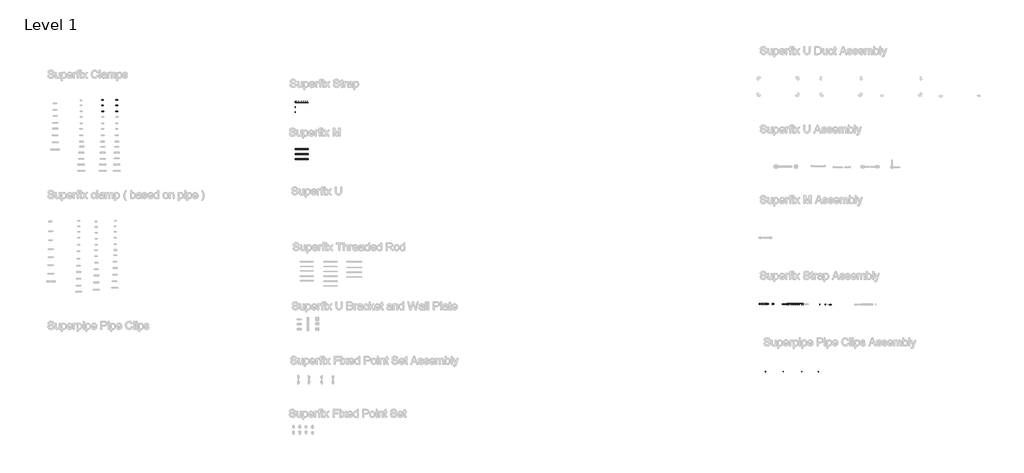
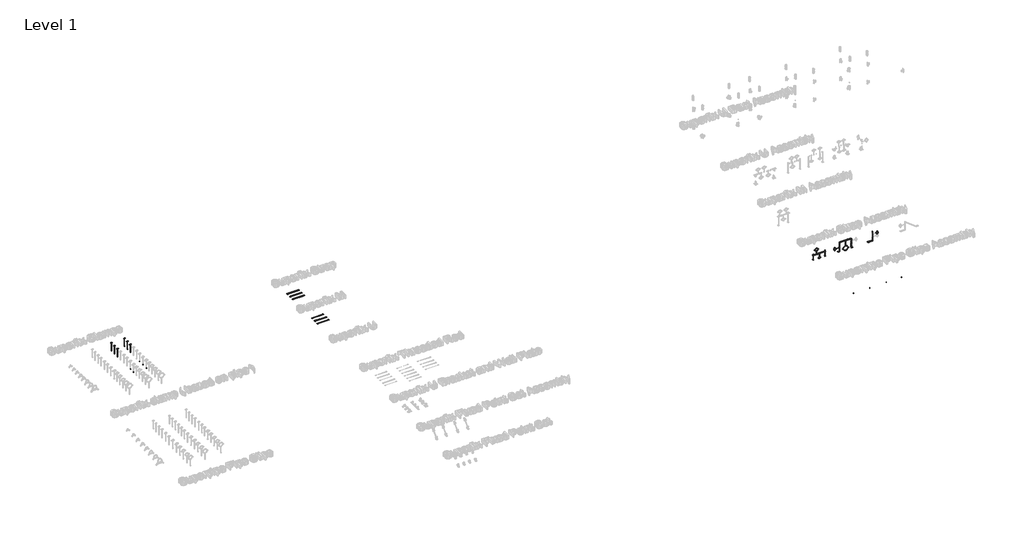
# One storey, part 5 of 32: 139 valves, 2 unitary equipment elements.
"""IFC4 building model written with IfcOpenShell, lengths in millimetres."""

from ifc_helpers import new_model, si_unit, origin, place, context, project, spatial, transform, mapped, element, save
from components import unitary_equipment_e487e5fd, valve_4cd83ece, valve_5304cde6, valve_b4b668c8, valve_03d34d46, valve_3ecbcef6, valve_9efe13c8, valve_b67d411c, valve_2c299770, valve_541e58e5, valve_9317ca73, valve_400a6949, valve_dc9e7541, valve_fd664f3f, valve_c1f0a65c, valve_76fbe92c, valve_fad8a5b8, valve_cdfc1e77, valve_7fccb85c, valve_54fbe6a6, valve_d78be41b, valve_1a68cbfa, hexagon_nut_galvanized_extra_m10_fcef541f, hexagon_nut_galvanized_extra_m8_53389388, valve_42e91783, superfix_hexagon_screw_galvanized_39733bb5, superfix_m_extra_beb970f8, superfix_strap_92ff0648, superfix_strap_170edda0, superfix_strap_511f298a, superfix_strap_0810b350, superfix_strap_981cfdac, superfix_strap_extra_1f4a646b

model = new_model("IFC4")

# Units and contexts
model_context = context("Model", 3, world=origin())
ifc_project = project(units=[si_unit("LENGTHUNIT", "METRE", prefix="MILLI")], contexts=[model_context])

# Site, building, storey
site = spatial("IfcSite", under=ifc_project)
building = spatial("IfcBuilding", under=site)
storey = spatial("IfcBuildingStorey", under=building, Name="Level 1", Elevation=0.0)

# Unitary equipment
placement = place(None, origin())
unitary_equipment_shape = unitary_equipment_e487e5fd(model_context)
element("IfcUnitaryEquipment", 1, ObjectType="1_INS_MQA-R : MQA-R", at=placement, inside=storey, context=model_context, shape_type="MappedRepresentation", body=[
    mapped(unitary_equipment_shape, transform((-22566.5211936, 20812.4684398, 0.0), x_axis=(0.0, 1.0, 0.0), y_axis=(-1.0, 0.0, 0.0), z_axis=(0.0, 0.0, 1.0))),
])
element("IfcUnitaryEquipment", 2, ObjectType="1_INS_MQA-R : MQA-R", at=placement, inside=storey, context=model_context, shape_type="MappedRepresentation", body=[
    mapped(unitary_equipment_shape, transform((-22066.5211936, 20812.4684398, 0.0), x_axis=(0.0, 1.0, 0.0), y_axis=(-1.0, 0.0, 0.0), z_axis=(0.0, 0.0, 1.0))),
])

# Valves
valve_shape = valve_4cd83ece(model_context)
element("IfcValve", 3, ObjectType="Superfix Threaded Rod (used for clamps) : Threaded Rod - 1000 mm (used for clamps)", at=placement, inside=storey, context=model_context, shape_type="MappedRepresentation", body=[
    mapped(valve_shape, transform((-22566.5211936, 20812.4684398, 0.0), x_axis=(0.0, 0.0, 1.0), y_axis=(1.0, 0.0, 0.0), z_axis=(0.0, 1.0, 0.0))),
])
element("IfcValve", 4, ObjectType="Superfix Threaded Rod (used for clamps) : Threaded Rod - 1000 mm (used for clamps)", at=placement, inside=storey, context=model_context, shape_type="MappedRepresentation", body=[
    mapped(valve_shape, transform((-22066.5211936, 20812.4684398, 0.0), x_axis=(0.0, 0.0, 1.0), y_axis=(1.0, 0.0, 0.0), z_axis=(0.0, 1.0, 0.0))),
])
valve_2_shape = valve_5304cde6(model_context)
element("IfcValve", 5, ObjectType="Superfix Threaded Rod (used for clamps) : Threaded Rod - 1000 mm (used for clamps)", at=placement, inside=storey, context=model_context, shape_type="MappedRepresentation", body=[
    mapped(valve_2_shape, transform((-22299.5211936, 20812.4684398, 202.0), x_axis=(0.0, 0.0, -1.0), y_axis=(-1.0, 0.0, 0.0), z_axis=(0.0, 1.0, 0.0))),
])
valve_3_shape = valve_b4b668c8(model_context)
element("IfcValve", 6, ObjectType="Superfix DG2 Clamp : Superfix DG2 Clamp", at=placement, inside=storey, context=model_context, shape_type="MappedRepresentation", body=[
    mapped(valve_3_shape, transform((-21204.0211936, 20799.485539, 402.0), x_axis=(0.0, -1.0, 0.0), y_axis=(-1.0, 0.0, 0.0), z_axis=(0.0, 0.0, -1.0))),
])
valve_4_shape = valve_03d34d46(model_context)
element("IfcValve", 7, ObjectType="Superfix DG2 Clamp : Superfix DG2 Clamp", at=placement, inside=storey, context=model_context, shape_type="MappedRepresentation", body=[
    mapped(valve_4_shape, transform((-22424.5211936, 20812.4684398, 202.0), x_axis=(0.0, 1.0, 0.0), y_axis=(-1.0, 0.0, 0.0), z_axis=(0.0, 0.0, 1.0))),
])
valve_5_shape = valve_3ecbcef6(model_context)
element("IfcValve", 8, ObjectType="Superfix Threaded Rod (used for clamps) : Threaded Rod - 1000 mm (used for clamps)", at=placement, inside=storey, context=model_context, shape_type="MappedRepresentation", body=[
    mapped(valve_5_shape, transform((-22424.5211936, 20812.4684398, 202.0), x_axis=(0.0, 0.0, 1.0), y_axis=(1.0, 0.0, 0.0), z_axis=(0.0, 1.0, 0.0))),
])
valve_6_shape = valve_9efe13c8(model_context)
element("IfcValve", 9, ObjectType="Superfix DG2 Clamp : Superfix DG2 Clamp", at=placement, inside=storey, context=model_context, shape_type="MappedRepresentation", body=[
    mapped(valve_6_shape, transform((-20075.2249053, 20789.480189, 287.5), x_axis=(0.0, 1.0, 0.0), y_axis=(0.0, 0.0, 1.0), z_axis=(1.0, 0.0, 0.0))),
])
element("IfcValve", 10, ObjectType="Superfix DG2 Clamp : Superfix DG2 Clamp", at=placement, inside=storey, context=model_context, shape_type="MappedRepresentation", body=[
    mapped(valve_6_shape, transform((-21464.5211936, 20799.485539, 167.25), x_axis=(0.0, -1.0, 0.0), y_axis=(0.0, 0.0, 1.0), z_axis=(-1.0, 0.0, 0.0))),
])
valve_7_shape = valve_b67d411c(model_context)
element("IfcValve", 11, ObjectType="Superfix Threaded Rod (used for clamps) : Threaded Rod - 1000 mm (used for clamps)", at=placement, inside=storey, context=model_context, shape_type="MappedRepresentation", body=[
    mapped(valve_7_shape, transform((-21464.5211936, 20799.485539, 167.25), x_axis=(-1.0, 0.0, 0.0), y_axis=(0.0, 0.0, -1.0), z_axis=(0.0, -1.0, 0.0))),
])
valve_8_shape = valve_2c299770(model_context)
element("IfcValve", 12, ObjectType="Superfix DG2 Clamp : Superfix DG2 Clamp", at=placement, inside=storey, context=model_context, shape_type="MappedRepresentation", body=[
    mapped(valve_8_shape, transform((-22299.5211936, 20812.4684398, 202.0), x_axis=(0.0, 1.0, 0.0), y_axis=(1.0, 0.0, 0.0), z_axis=(0.0, 0.0, -1.0))),
])
valve_9_shape = valve_541e58e5(model_context)
element("IfcValve", 13, ObjectType="Superfix DG2 Clamp Extra : Superfix DG2 Clamp Extra", at=placement, inside=storey, context=model_context, shape_type="MappedRepresentation", body=[
    mapped(valve_9_shape, transform((-47680.7889153, 28620.0778121, 0.0), x_axis=(0.0, -1.0, 0.0), y_axis=(1.0, 0.0, 0.0), z_axis=(0.0, 0.0, 1.0))),
])
valve_10_shape = valve_9317ca73(model_context)
element("IfcValve", 14, ObjectType="Superfix DG2 Clamp Extra : Superfix DG2 Clamp Extra", at=placement, inside=storey, context=model_context, shape_type="MappedRepresentation", body=[
    mapped(valve_10_shape, transform((-47674.2889153, 28179.0778121, 0.0), x_axis=(0.0, -1.0, 0.0), y_axis=(1.0, 0.0, 0.0), z_axis=(0.0, 0.0, 1.0))),
])
valve_11_shape = valve_400a6949(model_context)
element("IfcValve", 15, ObjectType="Superfix DG2 Clamp Extra : Superfix DG2 Clamp Extra", at=placement, inside=storey, context=model_context, shape_type="MappedRepresentation", body=[
    mapped(valve_11_shape, transform((-47679.2889153, 28400.0778121, 0.0), x_axis=(0.0, -1.0, 0.0), y_axis=(1.0, 0.0, 0.0), z_axis=(0.0, 0.0, 1.0))),
])
valve_12_shape = valve_dc9e7541(model_context)
element("IfcValve", 16, ObjectType="Superfix DG2 Clamp Extra + : Superfix DG2 Clamp Extra +", at=placement, inside=storey, context=model_context, shape_type="MappedRepresentation", body=[
    mapped(valve_12_shape, transform((-47132.8023141, 28620.0778121, 0.0), x_axis=(0.0, -1.0, 0.0), y_axis=(1.0, 0.0, 0.0), z_axis=(0.0, 0.0, 1.0))),
])
valve_13_shape = valve_fd664f3f(model_context)
element("IfcValve", 17, ObjectType="Superfix DG2 Clamp Extra + : Superfix DG2 Clamp Extra +", at=placement, inside=storey, context=model_context, shape_type="MappedRepresentation", body=[
    mapped(valve_13_shape, transform((-47134.3023141, 28400.0778121, 0.0), x_axis=(0.0, -1.0, 0.0), y_axis=(1.0, 0.0, 0.0), z_axis=(0.0, 0.0, 1.0))),
])
valve_14_shape = valve_c1f0a65c(model_context)
element("IfcValve", 18, ObjectType="Superfix DG2 Clamp Extra + : Superfix DG2 Clamp Extra +", at=placement, inside=storey, context=model_context, shape_type="MappedRepresentation", body=[
    mapped(valve_14_shape, transform((-47132.8023141, 28179.0778121, 0.0), x_axis=(0.0, -1.0, 0.0), y_axis=(1.0, 0.0, 0.0), z_axis=(0.0, 0.0, 1.0))),
])
valve_15_shape = valve_76fbe92c(model_context)
element("IfcValve", 19, ObjectType="Superfix Flat Washer : Superfix Flat Washer M4x10x1", at=placement, inside=storey, context=model_context, shape_type="MappedRepresentation", body=[
    mapped(valve_15_shape, transform((-22353.6380687, 18221.8902814, -2.008864), x_axis=(1.0, 0.0, 0.0), y_axis=(0.0, -1.0, 0.0), z_axis=(0.0, 0.0, -1.0))),
])
element("IfcValve", 20, ObjectType="Superfix Flat Washer : Superfix Flat Washer M4x10x1", at=placement, inside=storey, context=model_context, shape_type="MappedRepresentation", body=[
    mapped(valve_15_shape, transform((-21673.6380687, 18221.8902814, -2.008864), x_axis=(1.0, 0.0, 0.0), y_axis=(0.0, -1.0, 0.0), z_axis=(0.0, 0.0, -1.0))),
])
element("IfcValve", 21, ObjectType="Superfix Flat Washer : Superfix Flat Washer M4x10x1", at=placement, inside=storey, context=model_context, shape_type="MappedRepresentation", body=[
    mapped(valve_15_shape, transform((-20973.6380687, 18221.8902814, -2.008864), x_axis=(1.0, 0.0, 0.0), y_axis=(0.0, -1.0, 0.0), z_axis=(0.0, 0.0, -1.0))),
])
element("IfcValve", 22, ObjectType="Superfix Flat Washer : Superfix Flat Washer M4x10x1", at=placement, inside=storey, context=model_context, shape_type="MappedRepresentation", body=[
    mapped(valve_15_shape, transform((-20333.6380687, 18221.8902814, -2.008864), x_axis=(1.0, 0.0, 0.0), y_axis=(0.0, -1.0, 0.0), z_axis=(0.0, 0.0, -1.0))),
])
element("IfcValve", 23, ObjectType="Superfix Flat Washer : Superfix Flat Washer M4x10x1", at=placement, inside=storey, context=model_context, shape_type="MappedRepresentation", body=[
    mapped(valve_15_shape, transform((-21363.2711936, 20799.485539, 399.991136), x_axis=(1.0, 0.0, 0.0), y_axis=(0.0, -1.0, 0.0), z_axis=(0.0, 0.0, -1.0))),
])
element("IfcValve", 24, ObjectType="Superfix Flat Washer : Superfix Flat Washer M4x10x1", at=placement, inside=storey, context=model_context, shape_type="MappedRepresentation", body=[
    mapped(valve_15_shape, transform((-21275.4513629, 20799.485539, 399.991136), x_axis=(1.0, 0.0, 0.0), y_axis=(0.0, -1.0, 0.0), z_axis=(0.0, 0.0, -1.0))),
])
element("IfcValve", 25, ObjectType="Superfix Flat Washer : Superfix Flat Washer M4x10x1", at=placement, inside=storey, context=model_context, shape_type="MappedRepresentation", body=[
    mapped(valve_15_shape, transform((-21466.5300576, 20799.485539, 267.1301694), x_axis=(0.0, 0.0, -1.0), y_axis=(0.0, -1.0, 0.0), z_axis=(-1.0, 0.0, 0.0))),
])
element("IfcValve", 26, ObjectType="Superfix Flat Washer : Superfix Flat Washer M4x10x1", at=placement, inside=storey, context=model_context, shape_type="MappedRepresentation", body=[
    mapped(valve_15_shape, transform((-21466.5300576, 20799.485539, 50.5301694), x_axis=(0.0, 0.0, -1.0), y_axis=(0.0, -1.0, 0.0), z_axis=(-1.0, 0.0, 0.0))),
])
element("IfcValve", 27, ObjectType="Superfix Flat Washer : Superfix Flat Washer M4x10x1", at=placement, inside=storey, context=model_context, shape_type="MappedRepresentation", body=[
    mapped(valve_15_shape, transform((-21130.6477011, 20799.485539, 399.991136), x_axis=(1.0, 0.0, 0.0), y_axis=(0.0, -1.0, 0.0), z_axis=(0.0, 0.0, -1.0))),
])
element("IfcValve", 28, ObjectType="Superfix Flat Washer : Superfix Flat Washer M4x10x1", at=placement, inside=storey, context=model_context, shape_type="MappedRepresentation", body=[
    mapped(valve_15_shape, transform((-22375.4013629, 20812.4684398, 204.008864), x_axis=(1.0, 0.0, 0.0), y_axis=(0.0, 1.0, 0.0), z_axis=(0.0, 0.0, 1.0))),
])
element("IfcValve", 29, ObjectType="Superfix Flat Washer : Superfix Flat Washer M4x10x1", at=placement, inside=storey, context=model_context, shape_type="MappedRepresentation", body=[
    mapped(valve_15_shape, transform((-22237.2711936, 20812.4684398, 204.008864), x_axis=(1.0, 0.0, 0.0), y_axis=(0.0, 1.0, 0.0), z_axis=(0.0, 0.0, 1.0))),
])
element("IfcValve", 30, ObjectType="Superfix Flat Washer : Superfix Flat Washer M4x10x1", at=placement, inside=storey, context=model_context, shape_type="MappedRepresentation", body=[
    mapped(valve_15_shape, transform((-22517.0513629, 20812.4684398, 204.008864), x_axis=(1.0, 0.0, 0.0), y_axis=(0.0, 1.0, 0.0), z_axis=(0.0, 0.0, 1.0))),
])
valve_16_shape = valve_fad8a5b8(model_context)
element("IfcValve", 31, ObjectType="Superfix Flat Washer : Superfix Flat Washer M8x15x1.5", at=placement, inside=storey, context=model_context, shape_type="MappedRepresentation", body=[
    mapped(valve_16_shape, transform((-22566.5211936, 20812.4684398, 198.4), x_axis=(0.0, 1.0, 0.0), y_axis=(-1.0, 0.0, 0.0), z_axis=(0.0, 0.0, 1.0))),
])
element("IfcValve", 32, ObjectType="Superfix Flat Washer : Superfix Flat Washer M8x15x1.5", at=placement, inside=storey, context=model_context, shape_type="MappedRepresentation", body=[
    mapped(valve_16_shape, transform((-22566.5211936, 20812.4684398, 203.0), x_axis=(0.0, 1.0, 0.0), y_axis=(-1.0, 0.0, 0.0), z_axis=(0.0, 0.0, 1.0))),
])
element("IfcValve", 33, ObjectType="Superfix Flat Washer : Superfix Flat Washer M8x15x1.5", at=placement, inside=storey, context=model_context, shape_type="MappedRepresentation", body=[
    mapped(valve_16_shape, transform((-22066.5211936, 20812.4684398, 203.0), x_axis=(0.0, 1.0, 0.0), y_axis=(-1.0, 0.0, 0.0), z_axis=(0.0, 0.0, 1.0))),
])
element("IfcValve", 34, ObjectType="Superfix Flat Washer : Superfix Flat Washer M8x15x1.5", at=placement, inside=storey, context=model_context, shape_type="MappedRepresentation", body=[
    mapped(valve_16_shape, transform((-22066.5211936, 20812.4684398, 198.4), x_axis=(0.0, 1.0, 0.0), y_axis=(-1.0, 0.0, 0.0), z_axis=(0.0, 0.0, 1.0))),
])
element("IfcValve", 35, ObjectType="Superfix Flat Washer : Superfix Flat Washer M8x15x1.5", at=placement, inside=storey, context=model_context, shape_type="MappedRepresentation", body=[
    mapped(valve_16_shape, transform((-22299.5211936, 20812.4684398, 199.0), x_axis=(0.0, 1.0, 0.0), y_axis=(1.0, 0.0, 0.0), z_axis=(0.0, 0.0, -1.0))),
])
element("IfcValve", 36, ObjectType="Superfix Flat Washer : Superfix Flat Washer M8x15x1.5", at=placement, inside=storey, context=model_context, shape_type="MappedRepresentation", body=[
    mapped(valve_16_shape, transform((-22299.5211936, 20812.4684398, 203.6), x_axis=(0.0, 1.0, 0.0), y_axis=(1.0, 0.0, 0.0), z_axis=(0.0, 0.0, -1.0))),
])
valve_17_shape = valve_cdfc1e77(model_context)
element("IfcValve", 37, ObjectType="Superfix Flat Washer : Superfix Flat Washer M10x20x1.5", at=placement, inside=storey, context=model_context, shape_type="MappedRepresentation", body=[
    mapped(valve_17_shape, transform((-21467.5211936, 20799.485539, 167.25), x_axis=(0.0, -1.0, 0.0), y_axis=(0.0, 0.0, 1.0), z_axis=(-1.0, 0.0, 0.0))),
])
element("IfcValve", 38, ObjectType="Superfix Flat Washer : Superfix Flat Washer M10x20x1.5", at=placement, inside=storey, context=model_context, shape_type="MappedRepresentation", body=[
    mapped(valve_17_shape, transform((-21462.5211936, 20799.485539, 167.25), x_axis=(0.0, -1.0, 0.0), y_axis=(0.0, 0.0, 1.0), z_axis=(-1.0, 0.0, 0.0))),
])
element("IfcValve", 39, ObjectType="Superfix Flat Washer : Superfix Flat Washer M10x20x1.5", at=placement, inside=storey, context=model_context, shape_type="MappedRepresentation", body=[
    mapped(valve_17_shape, transform((-21204.0211936, 20799.485539, 399.0), x_axis=(0.0, -1.0, 0.0), y_axis=(-1.0, 0.0, 0.0), z_axis=(0.0, 0.0, -1.0))),
])
element("IfcValve", 40, ObjectType="Superfix Flat Washer : Superfix Flat Washer M10x20x1.5", at=placement, inside=storey, context=model_context, shape_type="MappedRepresentation", body=[
    mapped(valve_17_shape, transform((-21204.0211936, 20799.485539, 404.0), x_axis=(0.0, -1.0, 0.0), y_axis=(-1.0, 0.0, 0.0), z_axis=(0.0, 0.0, -1.0))),
])
element("IfcValve", 41, ObjectType="Superfix Flat Washer : Superfix Flat Washer M10x20x1.5", at=placement, inside=storey, context=model_context, shape_type="MappedRepresentation", body=[
    mapped(valve_17_shape, transform((-22424.5211936, 20812.4684398, 205.0), x_axis=(0.0, 1.0, 0.0), y_axis=(-1.0, 0.0, 0.0), z_axis=(0.0, 0.0, 1.0))),
])
element("IfcValve", 42, ObjectType="Superfix Flat Washer : Superfix Flat Washer M10x20x1.5", at=placement, inside=storey, context=model_context, shape_type="MappedRepresentation", body=[
    mapped(valve_17_shape, transform((-22424.5211936, 20812.4684398, 200.0), x_axis=(0.0, 1.0, 0.0), y_axis=(-1.0, 0.0, 0.0), z_axis=(0.0, 0.0, 1.0))),
])
element("IfcValve", 43, ObjectType="Superfix Flat Washer : Superfix Flat Washer Extra M8x15x1.5", at=placement, inside=storey, context=model_context, shape_type="MappedRepresentation", body=[
    mapped(valve_16_shape, transform((-47680.7889153, 28620.0778121, 5.0), x_axis=(1.0, 0.0, 0.0), y_axis=(0.0, 1.0, 0.0), z_axis=(0.0, 0.0, 1.0))),
])
element("IfcValve", 44, ObjectType="Superfix Flat Washer : Superfix Flat Washer Extra M8x15x1.5", at=placement, inside=storey, context=model_context, shape_type="MappedRepresentation", body=[
    mapped(valve_16_shape, transform((-47680.7889153, 28620.0778121, -1.6), x_axis=(1.0, 0.0, 0.0), y_axis=(0.0, 1.0, 0.0), z_axis=(0.0, 0.0, 1.0))),
])
element("IfcValve", 45, ObjectType="Superfix Flat Washer : Superfix Flat Washer Extra M8x15x1.5", at=placement, inside=storey, context=model_context, shape_type="MappedRepresentation", body=[
    mapped(valve_16_shape, transform((-47679.2889153, 28400.0778121, 5.0), x_axis=(1.0, 0.0, 0.0), y_axis=(0.0, 1.0, 0.0), z_axis=(0.0, 0.0, 1.0))),
])
element("IfcValve", 46, ObjectType="Superfix Flat Washer : Superfix Flat Washer Extra M8x15x1.5", at=placement, inside=storey, context=model_context, shape_type="MappedRepresentation", body=[
    mapped(valve_16_shape, transform((-47679.2889153, 28400.0778121, -1.6), x_axis=(1.0, 0.0, 0.0), y_axis=(0.0, 1.0, 0.0), z_axis=(0.0, 0.0, 1.0))),
])
element("IfcValve", 47, ObjectType="Superfix Flat Washer : Superfix Flat Washer Extra M8x15x1.5", at=placement, inside=storey, context=model_context, shape_type="MappedRepresentation", body=[
    mapped(valve_16_shape, transform((-47674.2889153, 28179.0778121, 5.0), x_axis=(1.0, 0.0, 0.0), y_axis=(0.0, 1.0, 0.0), z_axis=(0.0, 0.0, 1.0))),
])
element("IfcValve", 48, ObjectType="Superfix Flat Washer : Superfix Flat Washer Extra M8x15x1.5", at=placement, inside=storey, context=model_context, shape_type="MappedRepresentation", body=[
    mapped(valve_16_shape, transform((-47674.2889153, 28179.0778121, -1.6), x_axis=(1.0, 0.0, 0.0), y_axis=(0.0, 1.0, 0.0), z_axis=(0.0, 0.0, 1.0))),
])
element("IfcValve", 49, ObjectType="Superfix Flat Washer : Superfix Flat Washer EXtra M10x20x1.5", at=placement, inside=storey, context=model_context, shape_type="MappedRepresentation", body=[
    mapped(valve_17_shape, transform((-47669.2889153, 27260.0778121, 5.0), x_axis=(1.0, 0.0, 0.0), y_axis=(0.0, 1.0, 0.0), z_axis=(0.0, 0.0, 1.0))),
])
element("IfcValve", 50, ObjectType="Superfix Flat Washer : Superfix Flat Washer EXtra M10x20x1.5", at=placement, inside=storey, context=model_context, shape_type="MappedRepresentation", body=[
    mapped(valve_17_shape, transform((-47669.2889153, 27260.0778121, -2.0), x_axis=(1.0, 0.0, 0.0), y_axis=(0.0, 1.0, 0.0), z_axis=(0.0, 0.0, 1.0))),
])
element("IfcValve", 51, ObjectType="Superfix Flat Washer : Superfix Flat Washer EXtra M10x20x1.5", at=placement, inside=storey, context=model_context, shape_type="MappedRepresentation", body=[
    mapped(valve_17_shape, transform((-47669.2889153, 27020.0778121, 5.0), x_axis=(1.0, 0.0, 0.0), y_axis=(0.0, 1.0, 0.0), z_axis=(0.0, 0.0, 1.0))),
])
element("IfcValve", 52, ObjectType="Superfix Flat Washer : Superfix Flat Washer EXtra M10x20x1.5", at=placement, inside=storey, context=model_context, shape_type="MappedRepresentation", body=[
    mapped(valve_17_shape, transform((-47669.2889153, 27020.0778121, -2.0), x_axis=(1.0, 0.0, 0.0), y_axis=(0.0, 1.0, 0.0), z_axis=(0.0, 0.0, 1.0))),
])
element("IfcValve", 53, ObjectType="Superfix Flat Washer : Superfix Flat Washer Extra +  M8x15x1.5", at=placement, inside=storey, context=model_context, shape_type="MappedRepresentation", body=[
    mapped(valve_16_shape, transform((-47132.8023141, 28620.0778121, -1.6), x_axis=(1.0, 0.0, 0.0), y_axis=(0.0, 1.0, 0.0), z_axis=(0.0, 0.0, 1.0))),
])
element("IfcValve", 54, ObjectType="Superfix Flat Washer : Superfix Flat Washer Extra +  M8x15x1.5", at=placement, inside=storey, context=model_context, shape_type="MappedRepresentation", body=[
    mapped(valve_16_shape, transform((-47132.8023141, 28620.0778121, 5.0), x_axis=(1.0, 0.0, 0.0), y_axis=(0.0, 1.0, 0.0), z_axis=(0.0, 0.0, 1.0))),
])
element("IfcValve", 55, ObjectType="Superfix Flat Washer : Superfix Flat Washer Extra +  M8x15x1.5", at=placement, inside=storey, context=model_context, shape_type="MappedRepresentation", body=[
    mapped(valve_16_shape, transform((-47134.3023141, 28400.0778121, -1.6), x_axis=(1.0, 0.0, 0.0), y_axis=(0.0, 1.0, 0.0), z_axis=(0.0, 0.0, 1.0))),
])
element("IfcValve", 56, ObjectType="Superfix Flat Washer : Superfix Flat Washer Extra +  M8x15x1.5", at=placement, inside=storey, context=model_context, shape_type="MappedRepresentation", body=[
    mapped(valve_16_shape, transform((-47134.3023141, 28400.0778121, 5.0), x_axis=(1.0, 0.0, 0.0), y_axis=(0.0, 1.0, 0.0), z_axis=(0.0, 0.0, 1.0))),
])
element("IfcValve", 57, ObjectType="Superfix Flat Washer : Superfix Flat Washer Extra +  M8x15x1.5", at=placement, inside=storey, context=model_context, shape_type="MappedRepresentation", body=[
    mapped(valve_16_shape, transform((-47132.8023141, 28179.0778121, -1.6), x_axis=(1.0, 0.0, 0.0), y_axis=(0.0, 1.0, 0.0), z_axis=(0.0, 0.0, 1.0))),
])
element("IfcValve", 58, ObjectType="Superfix Flat Washer : Superfix Flat Washer Extra +  M8x15x1.5", at=placement, inside=storey, context=model_context, shape_type="MappedRepresentation", body=[
    mapped(valve_16_shape, transform((-47132.8023141, 28179.0778121, 5.0), x_axis=(1.0, 0.0, 0.0), y_axis=(0.0, 1.0, 0.0), z_axis=(0.0, 0.0, 1.0))),
])
element("IfcValve", 59, ObjectType="Superfix Flat Washer : Superfix Flat Washer Extra +  M8x15x1.5", at=placement, inside=storey, context=model_context, shape_type="MappedRepresentation", body=[
    mapped(valve_16_shape, transform((-47132.8023141, 27500.0778121, -1.6), x_axis=(1.0, 0.0, 0.0), y_axis=(0.0, 1.0, 0.0), z_axis=(0.0, 0.0, 1.0))),
])
element("IfcValve", 60, ObjectType="Superfix Flat Washer : Superfix Flat Washer Extra +  M8x15x1.5", at=placement, inside=storey, context=model_context, shape_type="MappedRepresentation", body=[
    mapped(valve_16_shape, transform((-47132.8023141, 27500.0778121, 5.0), x_axis=(1.0, 0.0, 0.0), y_axis=(0.0, 1.0, 0.0), z_axis=(0.0, 0.0, 1.0))),
])
element("IfcValve", 61, ObjectType="Superfix Flat Washer : Superfix Flat Washer EXtra +  M10x20x1.5", at=placement, inside=storey, context=model_context, shape_type="MappedRepresentation", body=[
    mapped(valve_17_shape, transform((-47132.8023141, 27260.0778121, -2.0), x_axis=(1.0, 0.0, 0.0), y_axis=(0.0, 1.0, 0.0), z_axis=(0.0, 0.0, 1.0))),
])
element("IfcValve", 62, ObjectType="Superfix Flat Washer : Superfix Flat Washer EXtra +  M10x20x1.5", at=placement, inside=storey, context=model_context, shape_type="MappedRepresentation", body=[
    mapped(valve_17_shape, transform((-47132.8023141, 27260.0778121, 5.0), x_axis=(1.0, 0.0, 0.0), y_axis=(0.0, 1.0, 0.0), z_axis=(0.0, 0.0, 1.0))),
])
element("IfcValve", 63, ObjectType="Superfix Flat Washer : Superfix Flat Washer EXtra +  M10x20x1.5", at=placement, inside=storey, context=model_context, shape_type="MappedRepresentation", body=[
    mapped(valve_17_shape, transform((-47132.8023141, 27020.0778121, -2.0), x_axis=(1.0, 0.0, 0.0), y_axis=(0.0, 1.0, 0.0), z_axis=(0.0, 0.0, 1.0))),
])
element("IfcValve", 64, ObjectType="Superfix Flat Washer : Superfix Flat Washer EXtra +  M10x20x1.5", at=placement, inside=storey, context=model_context, shape_type="MappedRepresentation", body=[
    mapped(valve_17_shape, transform((-47132.8023141, 27020.0778121, 5.0), x_axis=(1.0, 0.0, 0.0), y_axis=(0.0, 1.0, 0.0), z_axis=(0.0, 0.0, 1.0))),
])
valve_18_shape = valve_7fccb85c(model_context)
element("IfcValve", 65, ObjectType="Superfix Threaded Rod (used for clamps) : Threaded Rod - 1000 mm (used for clamps)", at=placement, inside=storey, context=model_context, shape_type="MappedRepresentation", body=[
    mapped(valve_18_shape, transform((-21204.0211936, 20799.485539, 402.0), x_axis=(0.0, 0.0, -1.0), y_axis=(1.0, 0.0, 0.0), z_axis=(0.0, -1.0, 0.0))),
])
valve_19_shape = valve_54fbe6a6(model_context)
element("IfcValve", 66, ObjectType="Superfix Threaded Rod (used for clamps) : Threaded Rod  Extra  - 1000 mm (used for clamps)", at=placement, inside=storey, context=model_context, shape_type="MappedRepresentation", body=[
    mapped(valve_19_shape, transform((-47680.7889153, 28620.0778121, 0.0), x_axis=(0.0, 0.0, 1.0), y_axis=(-1.0, 0.0, 0.0), z_axis=(0.0, -1.0, 0.0))),
])
element("IfcValve", 67, ObjectType="Superfix Threaded Rod (used for clamps) : Threaded Rod - 1000 mm (used for clamps)", at=placement, inside=storey, context=model_context, shape_type="MappedRepresentation", body=[
    mapped(valve_19_shape, transform((-47132.8023141, 28620.0778121, 0.0), x_axis=(0.0, 0.0, 1.0), y_axis=(-1.0, 0.0, 0.0), z_axis=(0.0, -1.0, 0.0))),
])
valve_20_shape = valve_d78be41b(model_context)
element("IfcValve", 68, ObjectType="Superfix Threaded Rod (used for clamps) : Threaded Rod  Extra  - 1000 mm (used for clamps)", at=placement, inside=storey, context=model_context, shape_type="MappedRepresentation", body=[
    mapped(valve_20_shape, transform((-47679.2889153, 28400.0778121, 0.0), x_axis=(0.0, 0.0, 1.0), y_axis=(-1.0, 0.0, 0.0), z_axis=(0.0, -1.0, 0.0))),
])
valve_21_shape = valve_1a68cbfa(model_context)
element("IfcValve", 69, ObjectType="Superfix Threaded Rod (used for clamps) : Threaded Rod  Extra  - 1000 mm (used for clamps)", at=placement, inside=storey, context=model_context, shape_type="MappedRepresentation", body=[
    mapped(valve_21_shape, transform((-47674.2889153, 28179.0778121, 0.0), x_axis=(0.0, 0.0, 1.0), y_axis=(-1.0, 0.0, 0.0), z_axis=(0.0, -1.0, 0.0))),
])
element("IfcValve", 70, ObjectType="Superfix Threaded Rod (used for clamps) : Threaded Rod - 1000 mm (used for clamps)", at=placement, inside=storey, context=model_context, shape_type="MappedRepresentation", body=[
    mapped(valve_20_shape, transform((-47134.3023141, 28400.0778121, 0.0), x_axis=(0.0, 0.0, 1.0), y_axis=(-1.0, 0.0, 0.0), z_axis=(0.0, -1.0, 0.0))),
])
element("IfcValve", 71, ObjectType="Superfix Threaded Rod (used for clamps) : Threaded Rod - 1000 mm (used for clamps)", at=placement, inside=storey, context=model_context, shape_type="MappedRepresentation", body=[
    mapped(valve_21_shape, transform((-47132.8023141, 28179.0778121, 0.0), x_axis=(0.0, 0.0, 1.0), y_axis=(-1.0, 0.0, 0.0), z_axis=(0.0, -1.0, 0.0))),
])
hexagon_nut_galvanized_extra_m10_shape = hexagon_nut_galvanized_extra_m10_fcef541f(model_context)
element("IfcValve", 72, ObjectType="Superfix Hexagon Nut Galvanized : Hexagon Nut Galvanized Extra + M10", at=placement, inside=storey, context=model_context, shape_type="MappedRepresentation", body=[
    mapped(hexagon_nut_galvanized_extra_m10_shape, transform((-47132.8023141, 27260.0778121, 0.0), x_axis=(0.0, -1.0, 0.0), y_axis=(-1.0, 0.0, 0.0), z_axis=(0.0, 0.0, -1.0))),
])
element("IfcValve", 73, ObjectType="Superfix Hexagon Nut Galvanized : Hexagon Nut Galvanized Extra + M10", at=placement, inside=storey, context=model_context, shape_type="MappedRepresentation", body=[
    mapped(hexagon_nut_galvanized_extra_m10_shape, transform((-47132.8023141, 27260.0778121, 5.0), x_axis=(0.0, -1.0, 0.0), y_axis=(1.0, 0.0, 0.0), z_axis=(0.0, 0.0, 1.0))),
])
element("IfcValve", 74, ObjectType="Superfix Hexagon Nut Galvanized : Hexagon Nut Galvanized Extra + M10", at=placement, inside=storey, context=model_context, shape_type="MappedRepresentation", body=[
    mapped(hexagon_nut_galvanized_extra_m10_shape, transform((-47132.8023141, 27020.0778121, 0.0), x_axis=(0.0, -1.0, 0.0), y_axis=(-1.0, 0.0, 0.0), z_axis=(0.0, 0.0, -1.0))),
])
element("IfcValve", 75, ObjectType="Superfix Hexagon Nut Galvanized : Hexagon Nut Galvanized Extra + M10", at=placement, inside=storey, context=model_context, shape_type="MappedRepresentation", body=[
    mapped(hexagon_nut_galvanized_extra_m10_shape, transform((-47132.8023141, 27020.0778121, 5.0), x_axis=(0.0, -1.0, 0.0), y_axis=(1.0, 0.0, 0.0), z_axis=(0.0, 0.0, 1.0))),
])
hexagon_nut_galvanized_extra_m8_shape = hexagon_nut_galvanized_extra_m8_53389388(model_context)
element("IfcValve", 76, ObjectType="Superfix Hexagon Nut Galvanized : Hexagon Nut Galvanized Extra +M8", at=placement, inside=storey, context=model_context, shape_type="MappedRepresentation", body=[
    mapped(hexagon_nut_galvanized_extra_m8_shape, transform((-47132.8023141, 28620.0778121, 0.0), x_axis=(0.0, -1.0, 0.0), y_axis=(-1.0, 0.0, 0.0), z_axis=(0.0, 0.0, -1.0))),
])
element("IfcValve", 77, ObjectType="Superfix Hexagon Nut Galvanized : Hexagon Nut Galvanized Extra +M8", at=placement, inside=storey, context=model_context, shape_type="MappedRepresentation", body=[
    mapped(hexagon_nut_galvanized_extra_m8_shape, transform((-47132.8023141, 28620.0778121, 5.0), x_axis=(0.0, -1.0, 0.0), y_axis=(1.0, 0.0, 0.0), z_axis=(0.0, 0.0, 1.0))),
])
element("IfcValve", 78, ObjectType="Superfix Hexagon Nut Galvanized : Hexagon Nut Galvanized Extra +M8", at=placement, inside=storey, context=model_context, shape_type="MappedRepresentation", body=[
    mapped(hexagon_nut_galvanized_extra_m8_shape, transform((-47134.3023141, 28400.0778121, 0.0), x_axis=(0.0, -1.0, 0.0), y_axis=(-1.0, 0.0, 0.0), z_axis=(0.0, 0.0, -1.0))),
])
element("IfcValve", 79, ObjectType="Superfix Hexagon Nut Galvanized : Hexagon Nut Galvanized Extra +M8", at=placement, inside=storey, context=model_context, shape_type="MappedRepresentation", body=[
    mapped(hexagon_nut_galvanized_extra_m8_shape, transform((-47134.3023141, 28400.0778121, 5.0), x_axis=(0.0, -1.0, 0.0), y_axis=(1.0, 0.0, 0.0), z_axis=(0.0, 0.0, 1.0))),
])
element("IfcValve", 80, ObjectType="Superfix Hexagon Nut Galvanized : Hexagon Nut Galvanized Extra +M8", at=placement, inside=storey, context=model_context, shape_type="MappedRepresentation", body=[
    mapped(hexagon_nut_galvanized_extra_m8_shape, transform((-47132.8023141, 28179.0778121, 0.0), x_axis=(0.0, -1.0, 0.0), y_axis=(-1.0, 0.0, 0.0), z_axis=(0.0, 0.0, -1.0))),
])
element("IfcValve", 81, ObjectType="Superfix Hexagon Nut Galvanized : Hexagon Nut Galvanized Extra +M8", at=placement, inside=storey, context=model_context, shape_type="MappedRepresentation", body=[
    mapped(hexagon_nut_galvanized_extra_m8_shape, transform((-47132.8023141, 28179.0778121, 5.0), x_axis=(0.0, -1.0, 0.0), y_axis=(1.0, 0.0, 0.0), z_axis=(0.0, 0.0, 1.0))),
])
element("IfcValve", 82, ObjectType="Superfix Hexagon Nut Galvanized : Hexagon Nut Galvanized Extra M10", at=placement, inside=storey, context=model_context, shape_type="MappedRepresentation", body=[
    mapped(hexagon_nut_galvanized_extra_m10_shape, transform((-47669.2889153, 27260.0778121, 0.0), x_axis=(0.0, -1.0, 0.0), y_axis=(-1.0, 0.0, 0.0), z_axis=(0.0, 0.0, -1.0))),
])
element("IfcValve", 83, ObjectType="Superfix Hexagon Nut Galvanized : Hexagon Nut Galvanized Extra M10", at=placement, inside=storey, context=model_context, shape_type="MappedRepresentation", body=[
    mapped(hexagon_nut_galvanized_extra_m10_shape, transform((-47669.2889153, 27260.0778121, 5.0), x_axis=(0.0, -1.0, 0.0), y_axis=(1.0, 0.0, 0.0), z_axis=(0.0, 0.0, 1.0))),
])
element("IfcValve", 84, ObjectType="Superfix Hexagon Nut Galvanized : Hexagon Nut Galvanized Extra M10", at=placement, inside=storey, context=model_context, shape_type="MappedRepresentation", body=[
    mapped(hexagon_nut_galvanized_extra_m10_shape, transform((-47669.2889153, 27020.0778121, 0.0), x_axis=(0.0, -1.0, 0.0), y_axis=(-1.0, 0.0, 0.0), z_axis=(0.0, 0.0, -1.0))),
])
element("IfcValve", 85, ObjectType="Superfix Hexagon Nut Galvanized : Hexagon Nut Galvanized Extra M10", at=placement, inside=storey, context=model_context, shape_type="MappedRepresentation", body=[
    mapped(hexagon_nut_galvanized_extra_m10_shape, transform((-47669.2889153, 27020.0778121, 5.0), x_axis=(0.0, -1.0, 0.0), y_axis=(1.0, 0.0, 0.0), z_axis=(0.0, 0.0, 1.0))),
])
element("IfcValve", 86, ObjectType="Superfix Hexagon Nut Galvanized : Hexagon Nut Galvanized Extra M8", at=placement, inside=storey, context=model_context, shape_type="MappedRepresentation", body=[
    mapped(hexagon_nut_galvanized_extra_m8_shape, transform((-47680.7889153, 28620.0778121, 0.0), x_axis=(0.0, -1.0, 0.0), y_axis=(-1.0, 0.0, 0.0), z_axis=(0.0, 0.0, -1.0))),
])
element("IfcValve", 87, ObjectType="Superfix Hexagon Nut Galvanized : Hexagon Nut Galvanized Extra M8", at=placement, inside=storey, context=model_context, shape_type="MappedRepresentation", body=[
    mapped(hexagon_nut_galvanized_extra_m8_shape, transform((-47680.7889153, 28620.0778121, 5.0), x_axis=(0.0, -1.0, 0.0), y_axis=(1.0, 0.0, 0.0), z_axis=(0.0, 0.0, 1.0))),
])
element("IfcValve", 88, ObjectType="Superfix Hexagon Nut Galvanized : Hexagon Nut Galvanized Extra M8", at=placement, inside=storey, context=model_context, shape_type="MappedRepresentation", body=[
    mapped(hexagon_nut_galvanized_extra_m8_shape, transform((-47679.2889153, 28400.0778121, 0.0), x_axis=(0.0, -1.0, 0.0), y_axis=(-1.0, 0.0, 0.0), z_axis=(0.0, 0.0, -1.0))),
])
element("IfcValve", 89, ObjectType="Superfix Hexagon Nut Galvanized : Hexagon Nut Galvanized Extra M8", at=placement, inside=storey, context=model_context, shape_type="MappedRepresentation", body=[
    mapped(hexagon_nut_galvanized_extra_m8_shape, transform((-47679.2889153, 28400.0778121, 5.0), x_axis=(0.0, -1.0, 0.0), y_axis=(1.0, 0.0, 0.0), z_axis=(0.0, 0.0, 1.0))),
])
element("IfcValve", 90, ObjectType="Superfix Hexagon Nut Galvanized : Hexagon Nut Galvanized Extra M8", at=placement, inside=storey, context=model_context, shape_type="MappedRepresentation", body=[
    mapped(hexagon_nut_galvanized_extra_m8_shape, transform((-47674.2889153, 28179.0778121, 0.0), x_axis=(0.0, -1.0, 0.0), y_axis=(-1.0, 0.0, 0.0), z_axis=(0.0, 0.0, -1.0))),
])
element("IfcValve", 91, ObjectType="Superfix Hexagon Nut Galvanized : Hexagon Nut Galvanized Extra M8", at=placement, inside=storey, context=model_context, shape_type="MappedRepresentation", body=[
    mapped(hexagon_nut_galvanized_extra_m8_shape, transform((-47674.2889153, 28179.0778121, 5.0), x_axis=(0.0, -1.0, 0.0), y_axis=(1.0, 0.0, 0.0), z_axis=(0.0, 0.0, 1.0))),
])
element("IfcValve", 92, ObjectType="Superfix Hexagon Nut Galvanized : Hexagon Nut Galvanized M10", at=placement, inside=storey, context=model_context, shape_type="MappedRepresentation", body=[
    mapped(hexagon_nut_galvanized_extra_m10_shape, transform((-21467.5211936, 20799.485539, 167.25), x_axis=(0.0, -1.0, 0.0), y_axis=(0.0, 0.0, 1.0), z_axis=(-1.0, 0.0, 0.0))),
])
element("IfcValve", 93, ObjectType="Superfix Hexagon Nut Galvanized : Hexagon Nut Galvanized M10", at=placement, inside=storey, context=model_context, shape_type="MappedRepresentation", body=[
    mapped(hexagon_nut_galvanized_extra_m10_shape, transform((-21456.5211936, 20799.485539, 167.25), x_axis=(0.0, -1.0, 0.0), y_axis=(0.0, 0.0, 1.0), z_axis=(-1.0, 0.0, 0.0))),
])
element("IfcValve", 94, ObjectType="Superfix Hexagon Nut Galvanized : Hexagon Nut Galvanized M10", at=placement, inside=storey, context=model_context, shape_type="MappedRepresentation", body=[
    mapped(hexagon_nut_galvanized_extra_m10_shape, transform((-21204.0211936, 20799.485539, 399.0), x_axis=(0.0, -1.0, 0.0), y_axis=(-1.0, 0.0, 0.0), z_axis=(0.0, 0.0, -1.0))),
])
element("IfcValve", 95, ObjectType="Superfix Hexagon Nut Galvanized : Hexagon Nut Galvanized M10", at=placement, inside=storey, context=model_context, shape_type="MappedRepresentation", body=[
    mapped(hexagon_nut_galvanized_extra_m10_shape, transform((-21204.0211936, 20799.485539, 410.0), x_axis=(0.0, -1.0, 0.0), y_axis=(-1.0, 0.0, 0.0), z_axis=(0.0, 0.0, -1.0))),
])
element("IfcValve", 96, ObjectType="Superfix Hexagon Nut Galvanized : Hexagon Nut Galvanized M10", at=placement, inside=storey, context=model_context, shape_type="MappedRepresentation", body=[
    mapped(hexagon_nut_galvanized_extra_m10_shape, transform((-22424.5211936, 20812.4684398, 205.0), x_axis=(0.0, 1.0, 0.0), y_axis=(-1.0, 0.0, 0.0), z_axis=(0.0, 0.0, 1.0))),
])
element("IfcValve", 97, ObjectType="Superfix Hexagon Nut Galvanized : Hexagon Nut Galvanized M10", at=placement, inside=storey, context=model_context, shape_type="MappedRepresentation", body=[
    mapped(hexagon_nut_galvanized_extra_m10_shape, transform((-22424.5211936, 20812.4684398, 194.0), x_axis=(0.0, 1.0, 0.0), y_axis=(-1.0, 0.0, 0.0), z_axis=(0.0, 0.0, 1.0))),
])
valve_22_shape = valve_42e91783(model_context)
element("IfcValve", 98, ObjectType="Superfix Hexagon Nut Galvanized : Hexagon Nut Galvanized M4", at=placement, inside=storey, context=model_context, shape_type="MappedRepresentation", body=[
    mapped(valve_22_shape, transform((-22353.6380687, 18221.8902814, -3.008864), x_axis=(1.0, 0.0, 0.0), y_axis=(0.0, -1.0, 0.0), z_axis=(0.0, 0.0, -1.0))),
])
element("IfcValve", 99, ObjectType="Superfix Hexagon Nut Galvanized : Hexagon Nut Galvanized M4", at=placement, inside=storey, context=model_context, shape_type="MappedRepresentation", body=[
    mapped(valve_22_shape, transform((-21673.6380687, 18221.8902814, -3.008864), x_axis=(1.0, 0.0, 0.0), y_axis=(0.0, -1.0, 0.0), z_axis=(0.0, 0.0, -1.0))),
])
element("IfcValve", 100, ObjectType="Superfix Hexagon Nut Galvanized : Hexagon Nut Galvanized M4", at=placement, inside=storey, context=model_context, shape_type="MappedRepresentation", body=[
    mapped(valve_22_shape, transform((-20973.6380687, 18221.8902814, -3.008864), x_axis=(1.0, 0.0, 0.0), y_axis=(0.0, -1.0, 0.0), z_axis=(0.0, 0.0, -1.0))),
])
element("IfcValve", 101, ObjectType="Superfix Hexagon Nut Galvanized : Hexagon Nut Galvanized M4", at=placement, inside=storey, context=model_context, shape_type="MappedRepresentation", body=[
    mapped(valve_22_shape, transform((-20333.6380687, 18221.8902814, -3.008864), x_axis=(1.0, 0.0, 0.0), y_axis=(0.0, -1.0, 0.0), z_axis=(0.0, 0.0, -1.0))),
])
element("IfcValve", 102, ObjectType="Superfix Hexagon Nut Galvanized : Hexagon Nut Galvanized M4", at=placement, inside=storey, context=model_context, shape_type="MappedRepresentation", body=[
    mapped(valve_22_shape, transform((-21363.2711936, 20799.485539, 398.991136), x_axis=(1.0, 0.0, 0.0), y_axis=(0.0, -1.0, 0.0), z_axis=(0.0, 0.0, -1.0))),
])
element("IfcValve", 103, ObjectType="Superfix Hexagon Nut Galvanized : Hexagon Nut Galvanized M4", at=placement, inside=storey, context=model_context, shape_type="MappedRepresentation", body=[
    mapped(valve_22_shape, transform((-21275.4513629, 20799.485539, 398.991136), x_axis=(1.0, 0.0, 0.0), y_axis=(0.0, -1.0, 0.0), z_axis=(0.0, 0.0, -1.0))),
])
element("IfcValve", 104, ObjectType="Superfix Hexagon Nut Galvanized : Hexagon Nut Galvanized M4", at=placement, inside=storey, context=model_context, shape_type="MappedRepresentation", body=[
    mapped(valve_22_shape, transform((-21467.5300576, 20799.485539, 267.1301694), x_axis=(0.0, 0.0, -1.0), y_axis=(0.0, -1.0, 0.0), z_axis=(-1.0, 0.0, 0.0))),
])
element("IfcValve", 105, ObjectType="Superfix Hexagon Nut Galvanized : Hexagon Nut Galvanized M4", at=placement, inside=storey, context=model_context, shape_type="MappedRepresentation", body=[
    mapped(valve_22_shape, transform((-21467.5300576, 20799.485539, 50.5301694), x_axis=(0.0, 0.0, -1.0), y_axis=(0.0, -1.0, 0.0), z_axis=(-1.0, 0.0, 0.0))),
])
element("IfcValve", 106, ObjectType="Superfix Hexagon Nut Galvanized : Hexagon Nut Galvanized M4", at=placement, inside=storey, context=model_context, shape_type="MappedRepresentation", body=[
    mapped(valve_22_shape, transform((-21130.6477011, 20799.485539, 398.991136), x_axis=(1.0, 0.0, 0.0), y_axis=(0.0, -1.0, 0.0), z_axis=(0.0, 0.0, -1.0))),
])
element("IfcValve", 107, ObjectType="Superfix Hexagon Nut Galvanized : Hexagon Nut Galvanized M4", at=placement, inside=storey, context=model_context, shape_type="MappedRepresentation", body=[
    mapped(valve_22_shape, transform((-22375.4013629, 20812.4684398, 205.008864), x_axis=(1.0, 0.0, 0.0), y_axis=(0.0, 1.0, 0.0), z_axis=(0.0, 0.0, 1.0))),
])
element("IfcValve", 108, ObjectType="Superfix Hexagon Nut Galvanized : Hexagon Nut Galvanized M4", at=placement, inside=storey, context=model_context, shape_type="MappedRepresentation", body=[
    mapped(valve_22_shape, transform((-22237.2711936, 20812.4684398, 205.008864), x_axis=(1.0, 0.0, 0.0), y_axis=(0.0, 1.0, 0.0), z_axis=(0.0, 0.0, 1.0))),
])
element("IfcValve", 109, ObjectType="Superfix Hexagon Nut Galvanized : Hexagon Nut Galvanized M4", at=placement, inside=storey, context=model_context, shape_type="MappedRepresentation", body=[
    mapped(valve_22_shape, transform((-22517.0513629, 20812.4684398, 205.008864), x_axis=(1.0, 0.0, 0.0), y_axis=(0.0, 1.0, 0.0), z_axis=(0.0, 0.0, 1.0))),
])
element("IfcValve", 110, ObjectType="Superfix Hexagon Nut Galvanized : Hexagon Nut Galvanized M8", at=placement, inside=storey, context=model_context, shape_type="MappedRepresentation", body=[
    mapped(hexagon_nut_galvanized_extra_m8_shape, transform((-22066.5211936, 20812.4684398, 193.5), x_axis=(0.0, 1.0, 0.0), y_axis=(-1.0, 0.0, 0.0), z_axis=(0.0, 0.0, 1.0))),
])
element("IfcValve", 111, ObjectType="Superfix Hexagon Nut Galvanized : Hexagon Nut Galvanized M8", at=placement, inside=storey, context=model_context, shape_type="MappedRepresentation", body=[
    mapped(hexagon_nut_galvanized_extra_m8_shape, transform((-22566.5211936, 20812.4684398, 200.0), x_axis=(0.0, 1.0, 0.0), y_axis=(1.0, 0.0, 0.0), z_axis=(0.0, 0.0, -1.0))),
])
element("IfcValve", 112, ObjectType="Superfix Hexagon Nut Galvanized : Hexagon Nut Galvanized M8", at=placement, inside=storey, context=model_context, shape_type="MappedRepresentation", body=[
    mapped(hexagon_nut_galvanized_extra_m8_shape, transform((-22066.5211936, 20812.4684398, 203.0), x_axis=(0.0, 1.0, 0.0), y_axis=(-1.0, 0.0, 0.0), z_axis=(0.0, 0.0, 1.0))),
])
element("IfcValve", 113, ObjectType="Superfix Hexagon Nut Galvanized : Hexagon Nut Galvanized M8", at=placement, inside=storey, context=model_context, shape_type="MappedRepresentation", body=[
    mapped(hexagon_nut_galvanized_extra_m8_shape, transform((-22566.5211936, 20812.4684398, 203.0), x_axis=(0.0, 1.0, 0.0), y_axis=(-1.0, 0.0, 0.0), z_axis=(0.0, 0.0, 1.0))),
])
element("IfcValve", 114, ObjectType="Superfix Hexagon Nut Galvanized : Hexagon Nut Galvanized M8", at=placement, inside=storey, context=model_context, shape_type="MappedRepresentation", body=[
    mapped(hexagon_nut_galvanized_extra_m8_shape, transform((-22299.5211936, 20812.4684398, 199.0), x_axis=(0.0, 1.0, 0.0), y_axis=(1.0, 0.0, 0.0), z_axis=(0.0, 0.0, -1.0))),
])
element("IfcValve", 115, ObjectType="Superfix Hexagon Nut Galvanized : Hexagon Nut Galvanized M8", at=placement, inside=storey, context=model_context, shape_type="MappedRepresentation", body=[
    mapped(hexagon_nut_galvanized_extra_m8_shape, transform((-22299.5211936, 20812.4684398, 208.5), x_axis=(0.0, 1.0, 0.0), y_axis=(1.0, 0.0, 0.0), z_axis=(0.0, 0.0, -1.0))),
])
superfix_hexagon_screw_galvanized_shape = superfix_hexagon_screw_galvanized_39733bb5(model_context)
element("IfcValve", 116, ObjectType="SuperFix Hexagon Screw Galvanized : Hexagon Screw Galvanized M4 × 25", at=placement, inside=storey, context=model_context, shape_type="MappedRepresentation", body=[
    mapped(superfix_hexagon_screw_galvanized_shape, transform((-22353.6380687, 18221.8902814, 11.0), x_axis=(0.0, -1.0, 0.0), y_axis=(1.0, 0.0, 0.0), z_axis=(0.0, 0.0, 1.0))),
])
element("IfcValve", 117, ObjectType="SuperFix Hexagon Screw Galvanized : Hexagon Screw Galvanized M4 × 25", at=placement, inside=storey, context=model_context, shape_type="MappedRepresentation", body=[
    mapped(superfix_hexagon_screw_galvanized_shape, transform((-21673.6380687, 18221.8902814, 14.0), x_axis=(0.0, -1.0, 0.0), y_axis=(1.0, 0.0, 0.0), z_axis=(0.0, 0.0, 1.0))),
])
element("IfcValve", 118, ObjectType="SuperFix Hexagon Screw Galvanized : Hexagon Screw Galvanized M4 × 25", at=placement, inside=storey, context=model_context, shape_type="MappedRepresentation", body=[
    mapped(superfix_hexagon_screw_galvanized_shape, transform((-20973.6380687, 18221.8902814, 15.0), x_axis=(0.0, -1.0, 0.0), y_axis=(1.0, 0.0, 0.0), z_axis=(0.0, 0.0, 1.0))),
])
element("IfcValve", 119, ObjectType="SuperFix Hexagon Screw Galvanized : Hexagon Screw Galvanized M4 × 25", at=placement, inside=storey, context=model_context, shape_type="MappedRepresentation", body=[
    mapped(superfix_hexagon_screw_galvanized_shape, transform((-20333.6380687, 18221.8902814, 17.0), x_axis=(0.0, -1.0, 0.0), y_axis=(1.0, 0.0, 0.0), z_axis=(0.0, 0.0, 1.0))),
])
element("IfcValve", 120, ObjectType="SuperFix Hexagon Screw Galvanized : Hexagon Screw Galvanized M4 × 25", at=placement, inside=storey, context=model_context, shape_type="MappedRepresentation", body=[
    mapped(superfix_hexagon_screw_galvanized_shape, transform((-21363.2711936, 20799.485539, 419.0), x_axis=(0.0, -1.0, 0.0), y_axis=(1.0, 0.0, 0.0), z_axis=(0.0, 0.0, 1.0))),
])
element("IfcValve", 121, ObjectType="SuperFix Hexagon Screw Galvanized : Hexagon Screw Galvanized M4 × 25", at=placement, inside=storey, context=model_context, shape_type="MappedRepresentation", body=[
    mapped(superfix_hexagon_screw_galvanized_shape, transform((-21275.4513629, 20799.485539, 419.0), x_axis=(0.0, -1.0, 0.0), y_axis=(1.0, 0.0, 0.0), z_axis=(0.0, 0.0, 1.0))),
])
element("IfcValve", 122, ObjectType="SuperFix Hexagon Screw Galvanized : Hexagon Screw Galvanized M4 × 25", at=placement, inside=storey, context=model_context, shape_type="MappedRepresentation", body=[
    mapped(superfix_hexagon_screw_galvanized_shape, transform((-21447.5211936, 20799.485539, 267.1301694), x_axis=(0.0, -1.0, 0.0), y_axis=(0.0, 0.0, -1.0), z_axis=(1.0, 0.0, 0.0))),
])
element("IfcValve", 123, ObjectType="SuperFix Hexagon Screw Galvanized : Hexagon Screw Galvanized M4 × 25", at=placement, inside=storey, context=model_context, shape_type="MappedRepresentation", body=[
    mapped(superfix_hexagon_screw_galvanized_shape, transform((-21447.5211936, 20799.485539, 50.5301694), x_axis=(0.0, -1.0, 0.0), y_axis=(0.0, 0.0, -1.0), z_axis=(1.0, 0.0, 0.0))),
])
element("IfcValve", 124, ObjectType="SuperFix Hexagon Screw Galvanized : Hexagon Screw Galvanized M4 × 25", at=placement, inside=storey, context=model_context, shape_type="MappedRepresentation", body=[
    mapped(superfix_hexagon_screw_galvanized_shape, transform((-21130.6477011, 20799.485539, 419.0), x_axis=(0.0, -1.0, 0.0), y_axis=(1.0, 0.0, 0.0), z_axis=(0.0, 0.0, 1.0))),
])
element("IfcValve", 125, ObjectType="SuperFix Hexagon Screw Galvanized : Hexagon Screw Galvanized M4 × 25", at=placement, inside=storey, context=model_context, shape_type="MappedRepresentation", body=[
    mapped(superfix_hexagon_screw_galvanized_shape, transform((-22375.4013629, 20812.4684398, 185.0), x_axis=(0.0, 1.0, 0.0), y_axis=(1.0, 0.0, 0.0), z_axis=(0.0, 0.0, -1.0))),
])
element("IfcValve", 126, ObjectType="SuperFix Hexagon Screw Galvanized : Hexagon Screw Galvanized M4 × 25", at=placement, inside=storey, context=model_context, shape_type="MappedRepresentation", body=[
    mapped(superfix_hexagon_screw_galvanized_shape, transform((-22237.2711936, 20812.4684398, 185.0), x_axis=(0.0, 1.0, 0.0), y_axis=(1.0, 0.0, 0.0), z_axis=(0.0, 0.0, -1.0))),
])
element("IfcValve", 127, ObjectType="SuperFix Hexagon Screw Galvanized : Hexagon Screw Galvanized M4 × 25", at=placement, inside=storey, context=model_context, shape_type="MappedRepresentation", body=[
    mapped(superfix_hexagon_screw_galvanized_shape, transform((-22517.0513629, 20812.4684398, 185.0), x_axis=(0.0, 1.0, 0.0), y_axis=(1.0, 0.0, 0.0), z_axis=(0.0, 0.0, -1.0))),
])
superfix_m_extra_shape = superfix_m_extra_beb970f8(model_context)
element("IfcValve", 128, ObjectType="Superfix M : SuperFix M", at=placement, inside=storey, context=model_context, shape_type="MappedRepresentation", body=[
    mapped(superfix_m_extra_shape, transform((-40059.8383797, 26738.7038672, 0.0), x_axis=(1.0, 0.0, 0.0), y_axis=(0.0, 1.0, 0.0), z_axis=(0.0, 0.0, 1.0))),
])
element("IfcValve", 129, ObjectType="Superfix M : SuperFix M - Extra", at=placement, inside=storey, context=model_context, shape_type="MappedRepresentation", body=[
    mapped(superfix_m_extra_shape, transform((-40059.8383797, 26538.0163204, 0.0), x_axis=(1.0, 0.0, 0.0), y_axis=(0.0, 1.0, 0.0), z_axis=(0.0, 0.0, 1.0))),
])
element("IfcValve", 130, ObjectType="Superfix M : SuperFix M - Extra +", at=placement, inside=storey, context=model_context, shape_type="MappedRepresentation", body=[
    mapped(superfix_m_extra_shape, transform((-40059.8383797, 26343.8093621, 0.0), x_axis=(1.0, 0.0, 0.0), y_axis=(0.0, 1.0, 0.0), z_axis=(0.0, 0.0, 1.0))),
])
superfix_strap_shape = superfix_strap_92ff0648(model_context)
element("IfcValve", 131, ObjectType="Superfix Strap : SuperFix Strap", at=placement, inside=storey, context=model_context, shape_type="MappedRepresentation", body=[
    mapped(superfix_strap_shape, transform((-21466.5211936, 20799.485539, 200.0), x_axis=(0.0, 0.0, 1.0), y_axis=(0.0, -1.0, 0.0), z_axis=(1.0, 0.0, 0.0))),
])
element("IfcValve", 132, ObjectType="Superfix Strap : SuperFix Strap", at=placement, inside=storey, context=model_context, shape_type="MappedRepresentation", body=[
    mapped(superfix_strap_shape, transform((-20966.5211936, 20799.485539, 200.0), x_axis=(0.0, 0.0, 1.0), y_axis=(0.0, 1.0, 0.0), z_axis=(-1.0, 0.0, 0.0))),
])
element("IfcValve", 133, ObjectType="Superfix Strap : SuperFix Strap", at=placement, inside=storey, context=model_context, shape_type="MappedRepresentation", body=[
    mapped(superfix_strap_shape, transform((-20077.2249053, 20789.480189, 200.0), x_axis=(0.0, 0.0, 1.0), y_axis=(0.0, -1.0, 0.0), z_axis=(1.0, 0.0, 0.0))),
])
superfix_strap_2_shape = superfix_strap_170edda0(model_context)
element("IfcValve", 134, ObjectType="Superfix Strap : SuperFix Strap", at=placement, inside=storey, context=model_context, shape_type="MappedRepresentation", body=[
    mapped(superfix_strap_2_shape, transform((-21501.5211936, 20799.485539, 0.0), x_axis=(-1.0, 0.0, 0.0), y_axis=(0.0, -1.0, 0.0), z_axis=(0.0, 0.0, 1.0))),
])
superfix_strap_3_shape = superfix_strap_511f298a(model_context)
element("IfcValve", 135, ObjectType="Superfix Strap : SuperFix Strap", at=placement, inside=storey, context=model_context, shape_type="MappedRepresentation", body=[
    mapped(superfix_strap_3_shape, transform((-22316.5211936, 20812.4684398, 200.0), x_axis=(-1.0, 0.0, 0.0), y_axis=(0.0, -1.0, 0.0), z_axis=(0.0, 0.0, 1.0))),
])
superfix_strap_4_shape = superfix_strap_0810b350(model_context)
element("IfcValve", 136, ObjectType="Superfix Strap : SuperFix Strap", at=placement, inside=storey, context=model_context, shape_type="MappedRepresentation", body=[
    mapped(superfix_strap_4_shape, transform((-20941.5211936, 20799.485539, 0.0), x_axis=(-1.0, 0.0, 0.0), y_axis=(0.0, -1.0, 0.0), z_axis=(0.0, 0.0, 1.0))),
])
superfix_strap_5_shape = superfix_strap_981cfdac(model_context)
element("IfcValve", 137, ObjectType="Superfix Strap : SuperFix Strap", at=placement, inside=storey, context=model_context, shape_type="MappedRepresentation", body=[
    mapped(superfix_strap_5_shape, transform((-20175.2249053, 20789.480189, 0.0), x_axis=(-1.0, 0.0, 0.0), y_axis=(0.0, -1.0, 0.0), z_axis=(0.0, 0.0, 1.0))),
])
superfix_strap_extra_shape = superfix_strap_extra_1f4a646b(model_context)
element("IfcValve", 138, ObjectType="Superfix Strap : SuperFix Strap", at=placement, inside=storey, context=model_context, shape_type="MappedRepresentation", body=[
    mapped(superfix_strap_extra_shape, transform((-40059.8383797, 28540.6463383, 0.0), x_axis=(1.0, 0.0, 0.0), y_axis=(0.0, 1.0, 0.0), z_axis=(0.0, 0.0, 1.0))),
])
element("IfcValve", 139, ObjectType="Superfix Strap : SuperFix Strap", at=placement, inside=storey, context=model_context, shape_type="MappedRepresentation", body=[
    mapped(superfix_strap_extra_shape, transform((-21216.5211936, 20799.485539, 400.0), x_axis=(-1.0, 0.0, 0.0), y_axis=(0.0, -1.0, 0.0), z_axis=(0.0, 0.0, 1.0))),
])
element("IfcValve", 140, ObjectType="Superfix Strap : SuperFix Strap - Extra", at=placement, inside=storey, context=model_context, shape_type="MappedRepresentation", body=[
    mapped(superfix_strap_extra_shape, transform((-40059.8383797, 28339.9587915, 0.0), x_axis=(1.0, 0.0, 0.0), y_axis=(0.0, 1.0, 0.0), z_axis=(0.0, 0.0, 1.0))),
])
element("IfcValve", 141, ObjectType="Superfix Strap : SuperFix Strap - Extra +", at=placement, inside=storey, context=model_context, shape_type="MappedRepresentation", body=[
    mapped(superfix_strap_extra_shape, transform((-40059.8383797, 28145.7518331, 0.0), x_axis=(1.0, 0.0, 0.0), y_axis=(0.0, 1.0, 0.0), z_axis=(0.0, 0.0, 1.0))),
])

save(model, "model.ifc")
